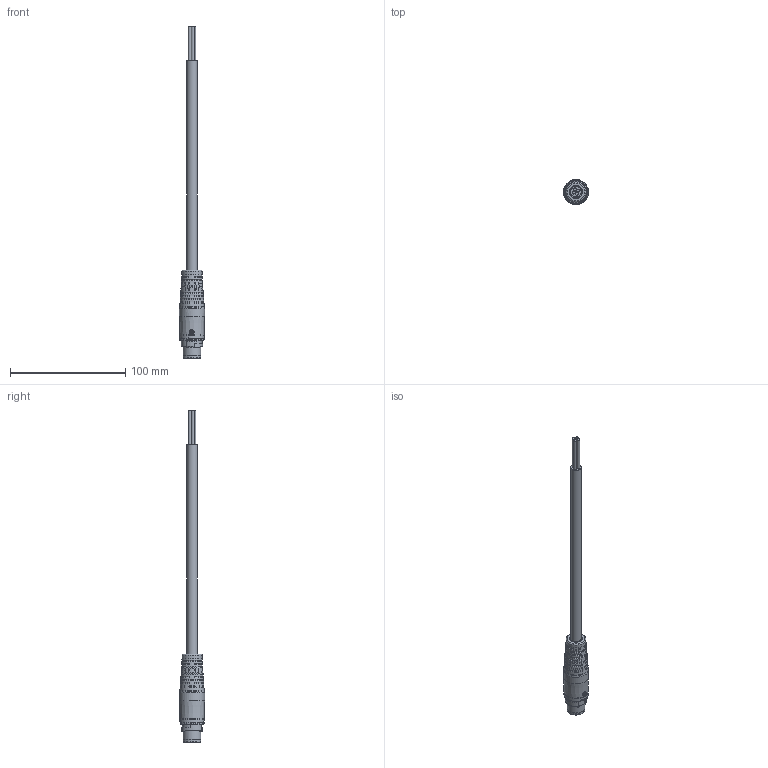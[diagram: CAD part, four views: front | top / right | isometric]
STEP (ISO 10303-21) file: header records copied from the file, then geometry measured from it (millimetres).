
FILE_DESCRIPTION (( 'STEP AP203' ), '1' );
FILE_NAME ('1133054_W-TEC_15K_STI_BU_STEP.STEP', '2023-09-04T05:38:19', ( '' ), ( '' ), 'SwSTEP 2.0', 'SolidWorks 2021', '' );
FILE_SCHEMA (( 'CONFIG_CONTROL_DESIGN' ));
Length unit declared in the file: millimetre
Products named in the file (1): 1133054_W-TEC_15K_STI_BU_STEP
Bounding box: 21.7 x 21.82 x 287.67 mm (x, y, z)
Surface area: 12927.9 mm2 (no closed solid volume)
Topology: 0 solids, 11 shells, 484 faces, 1698 edges, 1125 vertices
Faces by surface type: bspline 171, plane 135, cylinder 132, cone 26, torus 16, sphere 4
Full cylindrical faces by diameter (mm): 1.6 x3, 2.5 x3, 4 x1, 4.4 x3, 9.1 x1, 11.1 x1, 15.2 x1, 15.4 x1, 17.384 x1, 21.24 x1, 21.72 x1
Entity records: 24771 total; most frequent: CARTESIAN_POINT 12940, ORIENTED_EDGE 2631, DIRECTION 1803, EDGE_CURVE 1593, VERTEX_POINT 1102, B_SPLINE_CURVE_WITH_KNOTS 704, AXIS2_PLACEMENT_3D 657, EDGE_LOOP 555
